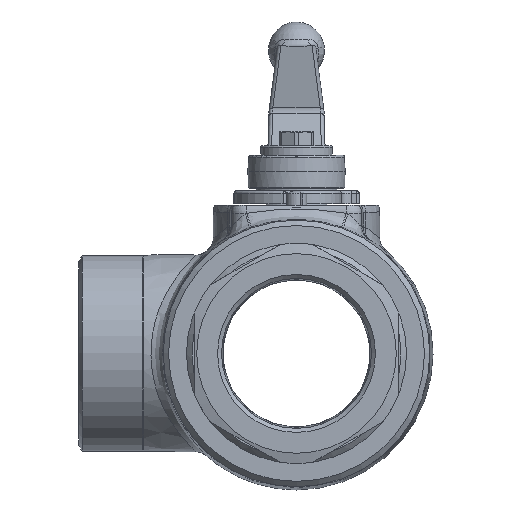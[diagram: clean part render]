
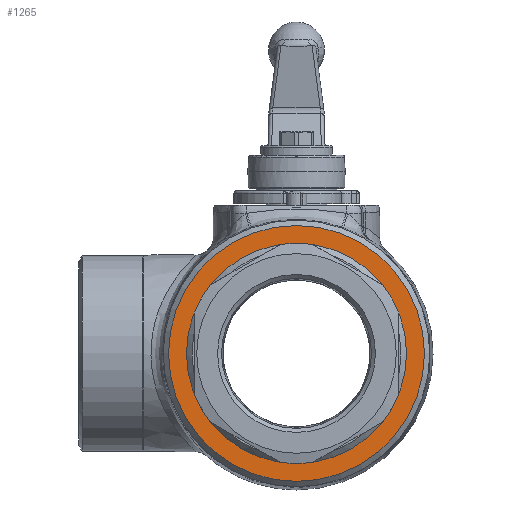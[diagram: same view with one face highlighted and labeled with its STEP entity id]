
A CAD part, front view. The second image highlights one B-rep face of the part: STEP entity #1265.
In plain terms, the highlighted planar face has unit normal (0, -1, 0).
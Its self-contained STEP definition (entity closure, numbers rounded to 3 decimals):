
#1265 = ADVANCED_FACE( '', ( #2578, #2579 ), #2580, .F. );
#2578 = FACE_BOUND( '', #5736, .T. );
#2579 = FACE_OUTER_BOUND( '', #5737, .T. );
#2580 = PLANE( '', #5738 );
#5736 = EDGE_LOOP( '', ( #9137 ) );
#5737 = EDGE_LOOP( '', ( #9138 ) );
#5738 = AXIS2_PLACEMENT_3D( '', #9139, #9140, #9141 );
#9137 = ORIENTED_EDGE( '', *, *, #11132, .T. );
#9138 = ORIENTED_EDGE( '', *, *, #11407, .T. );
#9139 = CARTESIAN_POINT( '', ( 197.479, -50., 69.539 ) );
#9140 = DIRECTION( '', ( 0., 1., 0. ) );
#9141 = DIRECTION( '', ( 0., 0., 1. ) );
#11132 = EDGE_CURVE( '', #13155, #13155, #13156, .T. );
#11407 = EDGE_CURVE( '', #13480, #13480, #13481, .T. );
#13155 = VERTEX_POINT( '', #18536 );
#13156 = CIRCLE( '', #18537, 40.606 );
#13480 = VERTEX_POINT( '', #19290 );
#13481 = CIRCLE( '', #19291, 50. );
#18536 = CARTESIAN_POINT( '', ( 0., -50., 40.606 ) );
#18537 = AXIS2_PLACEMENT_3D( '', #21057, #21058, #21059 );
#19290 = CARTESIAN_POINT( '', ( 0., -50., -50. ) );
#19291 = AXIS2_PLACEMENT_3D( '', #21345, #21346, #21347 );
#21057 = CARTESIAN_POINT( '', ( 0., -50., 0. ) );
#21058 = DIRECTION( '', ( 0., 1., 0. ) );
#21059 = DIRECTION( '', ( 0., 0., 1. ) );
#21345 = CARTESIAN_POINT( '', ( 0., -50., 0. ) );
#21346 = DIRECTION( '', ( 0., -1., 0. ) );
#21347 = DIRECTION( '', ( 0., 0., -1. ) );
